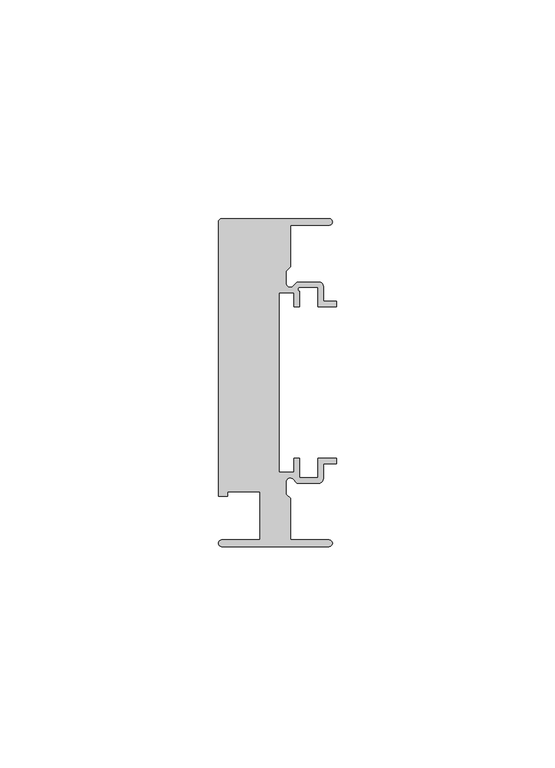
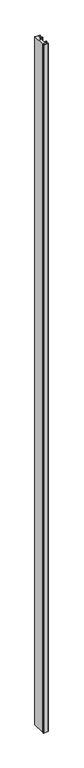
"""IFC4 building model written with IfcOpenShell, lengths in millimetres: member geometry, Прямоугольный импост : 5-AMG-1-Профиль 26Х75 Верх П."""

from ifc_helpers import new_model, si_unit, point, frame, frame_2d, origin, place, context, project, spatial, polyline, circle_curve, trimmed, segment, composite_curve, outline, extrude, source, transform, mapped, element, save


def member_a27bc3e2(model_context):
    return source(origin(), model_context, "Body", "SweptSolid", [
        extrude(outline(composite_curve([segment(polyline([(-1.7, -37.5), (-26.25, -37.5)]), True, "CONTINUOUS"), segment(trimmed(circle_curve(frame_2d((-26.25, -36.75)), 0.75), [point((-26.25, -37.5))], [point((-26.25, -36.0))], False, "CARTESIAN"), True, "CONTINUOUS"), segment(polyline([(-26.25, -36.0), (-17.5, -36.0), (-17.5, -25.0), (-24.9359877, -25.0), (-24.9359877, -26.0), (-27.0, -26.0), (-27.0, 36.7244847)]), True, "CONTINUOUS"), segment(trimmed(circle_curve(frame_2d((-26.2240507, 36.7244847)), 0.7759493), [point((-27.0, 36.7244847))], [point((-26.25, 37.5))], False, "CARTESIAN"), True, "CONTINUOUS"), segment(polyline([(-26.25, 37.5), (-1.7, 37.5)]), True, "CONTINUOUS"), segment(trimmed(circle_curve(frame_2d((-1.7, 36.75)), 0.75), [point((-1.7, 37.5))], [point((-1.7, 36.0))], False, "CARTESIAN"), True, "CONTINUOUS"), segment(polyline([(-1.7, 36.0), (-10.5, 36.0), (-10.5, 26.5029437), (-11.5, 25.5029437), (-11.5, 22.6727922)]), True, "CONTINUOUS"), segment(trimmed(circle_curve(frame_2d((-10.6, 22.6727922)), 0.9), [point((-11.5, 22.6727922))], [point((-9.9636039, 22.0363961))], True, "CARTESIAN"), True, "CONTINUOUS"), segment(polyline([(-9.9636039, 22.0363961), (-9.0, 23.0), (-4.0, 23.0)]), True, "CONTINUOUS"), segment(trimmed(circle_curve(frame_2d((-4.0, 22.0)), 1.0), [point((-4.0, 23.0))], [point((-3.0, 22.0))], False, "CARTESIAN"), True, "CONTINUOUS"), segment(polyline([(-3.0, 22.0), (-3.0, 18.55), (0.0, 18.55), (0.0, 17.35), (-4.2, 17.35), (-4.2, 21.8), (-8.5029437, 21.8)]), True, "CONTINUOUS"), segment(trimmed(circle_curve(frame_2d((-8.3343131, 21.3314262)), 0.4979937), [point((-8.5029437, 21.8))], [point((-8.45, 20.8470563))], True, "CARTESIAN"), True, "CONTINUOUS"), segment(polyline([(-8.45, 20.8470563), (-8.45, 17.35), (-9.65, 17.35), (-9.65, 20.55), (-13.15, 20.55), (-13.15, -20.55), (-9.65, -20.55), (-9.65, -17.35), (-8.45, -17.35), (-8.45, -21.8), (-4.2, -21.8), (-4.2, -17.35), (0.0, -17.35), (0.0, -18.55), (-3.0, -18.55), (-3.0, -22.0)]), True, "CONTINUOUS"), segment(trimmed(circle_curve(frame_2d((-4.0, -22.0)), 1.0), [point((-3.0, -22.0))], [point((-4.0, -23.0))], False, "CARTESIAN"), True, "CONTINUOUS"), segment(polyline([(-4.0, -23.0), (-9.0, -23.0), (-9.9636039, -22.0363961)]), True, "CONTINUOUS"), segment(trimmed(circle_curve(frame_2d((-10.6, -22.6727922)), 0.9), [point((-9.9636039, -22.0363961))], [point((-11.5, -22.6727922))], True, "CARTESIAN"), True, "CONTINUOUS"), segment(polyline([(-11.5, -22.6727922), (-11.5, -25.5029437), (-10.5, -26.5029437), (-10.5, -36.0), (-1.7, -36.0)]), True, "CONTINUOUS"), segment(trimmed(circle_curve(frame_2d((-1.7, -36.75)), 0.75), [point((-1.7, -36.0))], [point((-1.7, -37.5))], False, "CARTESIAN"), True, "CONTINUOUS")], self_intersect=False)), frame((0.0, 0.0, -3696.0), z_axis=(0.0, 0.0, 1.0), x_axis=(1.0, 0.0, 0.0)), (0.0, 0.0, 1.0), 3696.0),
    ])


if __name__ == "__main__":
    model = new_model("IFC4")
    model_context = context("Model", 3, world=origin())
    ifc_project = project(units=[si_unit("LENGTHUNIT", "METRE", prefix="MILLI")], contexts=[model_context])
    site = spatial("IfcSite", under=ifc_project)
    building = spatial("IfcBuilding", under=site)
    placement = place(None, origin())
    member_shape = member_a27bc3e2(model_context)
    element("IfcMember", 1, ObjectType="Прямоугольный импост : 5-AMG-1-Профиль 26Х75 Верх П", at=placement, inside=building, context=model_context, shape_type="MappedRepresentation", body=[
        mapped(member_shape, transform((0.0, 0.0, 0.0), x_axis=(1.0, 0.0, 0.0), y_axis=(0.0, 1.0, 0.0), z_axis=(0.0, 0.0, 1.0))),
    ])
    save(model, "model.ifc")
